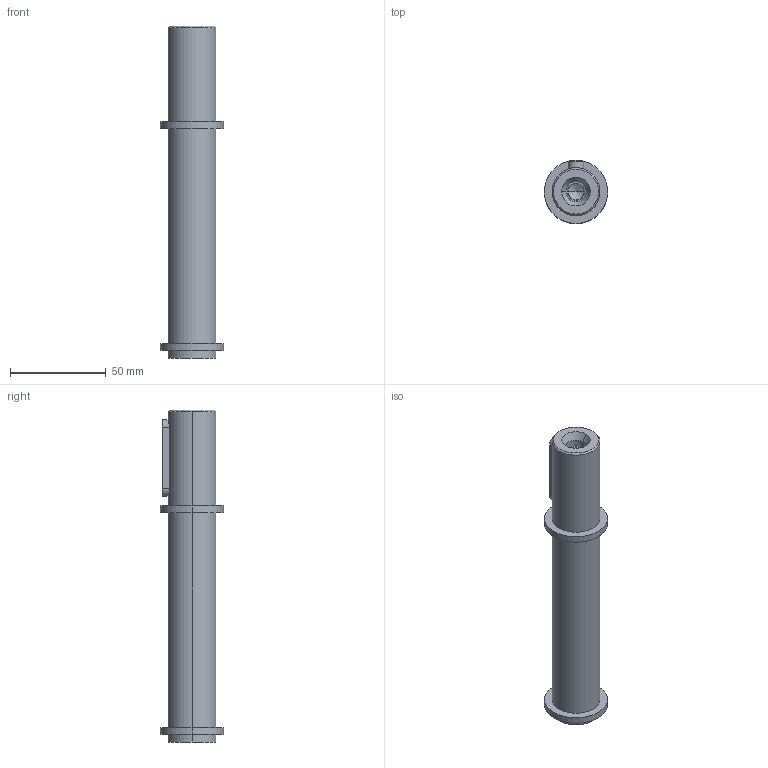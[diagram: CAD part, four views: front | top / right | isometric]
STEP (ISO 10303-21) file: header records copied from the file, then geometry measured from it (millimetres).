
FILE_DESCRIPTION(/* description */ (''),/* implementation_level */ '2;1');
FILE_NAME(/* name */ '4_ALBERO LENTO SEMPLICE BA52',/* time_stamp */ '2025-10-22T11:45:28+02:00',/* author */ (''),/* organization */ (''),/* preprocessor_version */ 'ST-DEVELOPER v19.2',/* originating_system */ 'Rhino 8.23',/* authorisation */ '');
FILE_SCHEMA (('CONFIG_CONTROL_DESIGN'));
Length unit declared in the file: millimetre
Products named in the file (2): Document; A52-S2580501225
Bounding box: 33 x 33 x 173 mm (x, y, z)
Volume: 86341.6 mm3; surface area: 17283 mm2
Topology: 1 solids, 1 shells, 34 faces, 70 edges, 43 vertices
Faces by surface type: cylinder 16, plane 10, bspline 8
Entity records: 1174 total; most frequent: CARTESIAN_POINT 337, ORIENTED_EDGE 136, DIRECTION 106, EDGE_CURVE 68, AXIS2_PLACEMENT_3D 66, VERTEX_POINT 43, EDGE_LOOP 41, TRIMMED_CURVE 36
